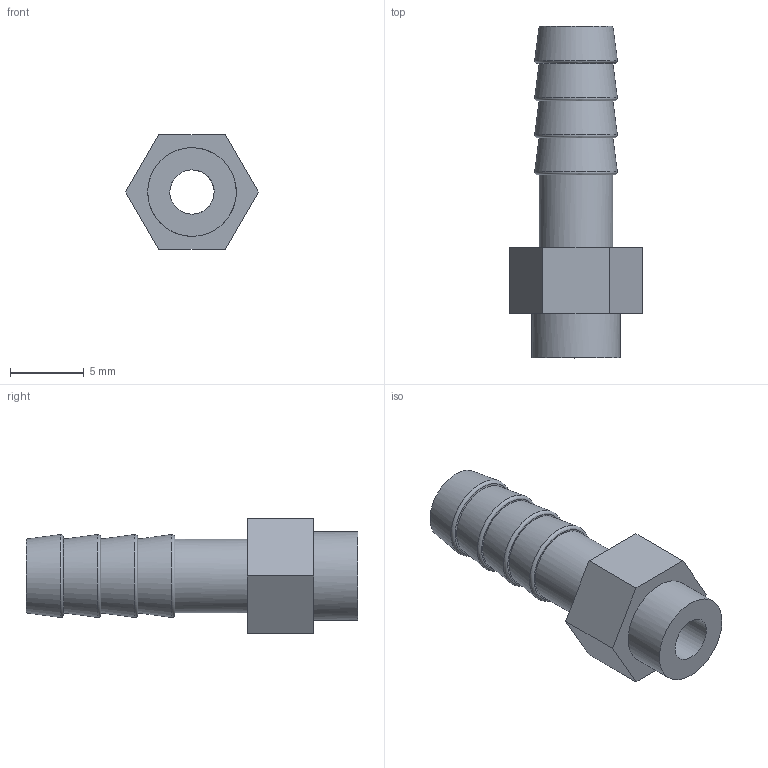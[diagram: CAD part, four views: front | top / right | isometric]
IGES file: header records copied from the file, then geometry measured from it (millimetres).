
Global section: file name: Pipe conector; native system: Autodesk Inventor 2017; preprocessor: unknown; author: user; date: 20200330.183506; units: millimetre
Bounding box: 9 x 22.5 x 7.79 mm (x, y, z)
Volume: 484.5 mm3; surface area: 743.3 mm2
Topology: 1 solids, 1 shells, 25 faces, 63 edges, 45 vertices
Faces by surface type: bspline 25
